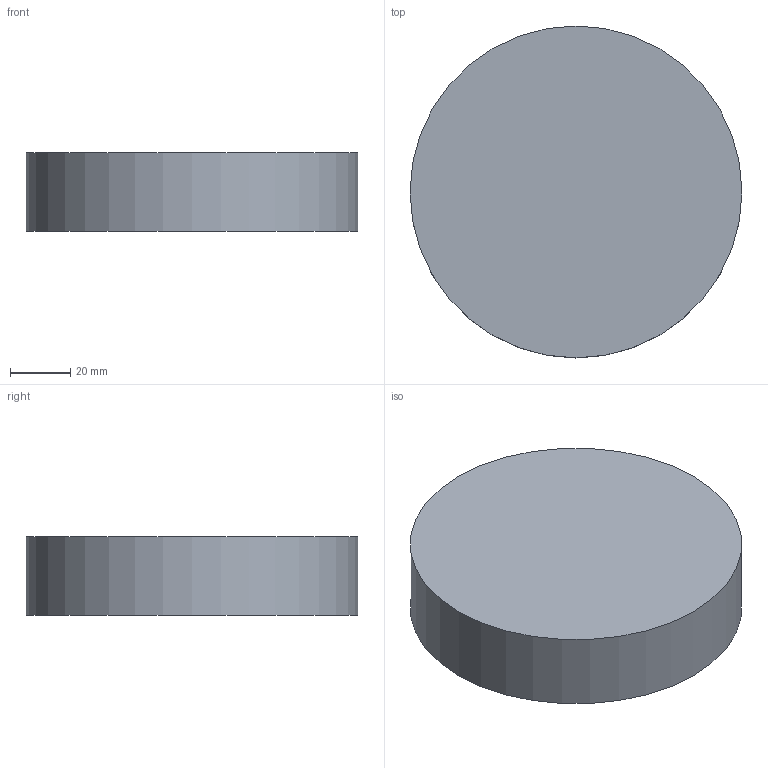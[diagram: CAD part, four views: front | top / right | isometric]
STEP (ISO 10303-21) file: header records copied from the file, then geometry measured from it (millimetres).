
FILE_DESCRIPTION(('Open CASCADE Model'),'2;1');
FILE_NAME('Open CASCADE Shape Model','2026-10-19T10:09:21',('Author'),( 'Open CASCADE'),'Open CASCADE STEP processor 8.0','Open CASCADE 8.0' ,'Unknown');
FILE_SCHEMA(('AUTOMOTIVE_DESIGN { 1 0 10303 214 1 1 1 1 }'));
Length unit declared in the file: millimetre
Products named in the file (1): KITO_RUEDA_D110_PASO118_REF 126
Bounding box: 110 x 110 x 26 mm (x, y, z)
Volume: 247086.3 mm3; surface area: 27991.6 mm2
Topology: 1 solids, 1 shells, 3 faces, 3 edges, 2 vertices
Faces by surface type: plane 2, cylinder 1
Full cylindrical faces by diameter (mm): 110 x1
Entity records: 108 total; most frequent: DIRECTION 19, CARTESIAN_POINT 15, AXIS2_PLACEMENT_3D 6, ORIENTED_EDGE 6, PCURVE 6, DEFINITIONAL_REPRESENTATION 6, LINE 5, VECTOR 5
